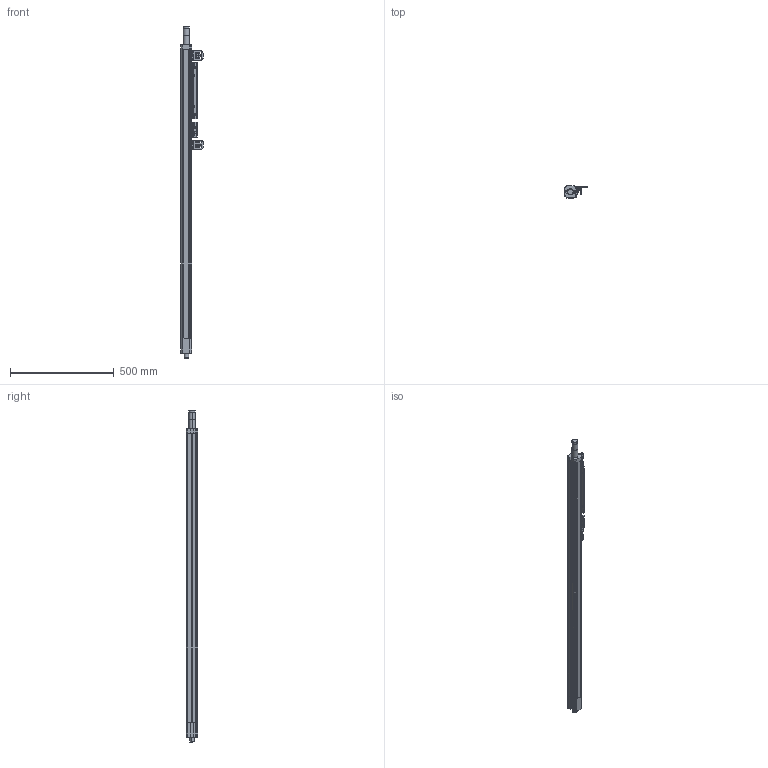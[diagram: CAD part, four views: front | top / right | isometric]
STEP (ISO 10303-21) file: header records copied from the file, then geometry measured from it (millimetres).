
FILE_DESCRIPTION((''),'2;1');
FILE_NAME('CP_1350_ml.stp','2007-11-12T13:00:46',(''),(''),'Mechanical Desktop 2008','Mechanical Desktop 2008',', , ');
FILE_SCHEMA(('CONFIG_CONTROL_DESIGN'));
Length unit declared in the file: millimetre
Products named in the file (20): COMPACT_PLUS_LV; KAPPE-CR-3D; SCHWENKWINKEL-270MM-; 347912-3D-; 347913-3D-; 347914-3D-; M6-GEWINDEBUCHSE; BUCHSE; PROFIL; SCHEIBE UND SCHNAPPLEISTEN; ~KAPPE-CR-3D; SCHWENKWINKEL; 347901-3D-; 347902-3D-; 347903-3D-; ~M6-GEWINDEBUCHSE; MESSING-BUCHSE; 347450-COMPACT-WINKEL-3D; MUTINGLAMPE; RM_SDB
Assembly tree (26 placements, depth 3):
  COMPACT_PLUS_LV
    KAPPE-CR-3D
    SCHWENKWINKEL-270MM-
      347912-3D-
      347913-3D-
      347914-3D-
      M6-GEWINDEBUCHSE  x2
      BUCHSE  x4
    PROFIL
    SCHEIBE UND SCHNAPPLEISTEN
    ~KAPPE-CR-3D
    SCHWENKWINKEL
      347901-3D-
      347902-3D-
      347903-3D-
      ~M6-GEWINDEBUCHSE  x2
      MESSING-BUCHSE  x2
    347450-COMPACT-WINKEL-3D  x2
    MUTINGLAMPE
    RM_SDB
Bounding box: 106.19 x 55.58 x 1597 mm (x, y, z)
Volume: 3961013.3 mm3; surface area: 663869.8 mm2
Topology: 23 solids, 23 shells, 468 faces, 1212 edges, 822 vertices
Faces by surface type: cylinder 238, plane 228, cone 2
Entity records: 12447 total; most frequent: CARTESIAN_POINT 2642, DIRECTION 2064, ORIENTED_EDGE 1900, EDGE_CURVE 950, AXIS2_PLACEMENT_3D 744, VERTEX_POINT 638, VECTOR 576, LINE 576
